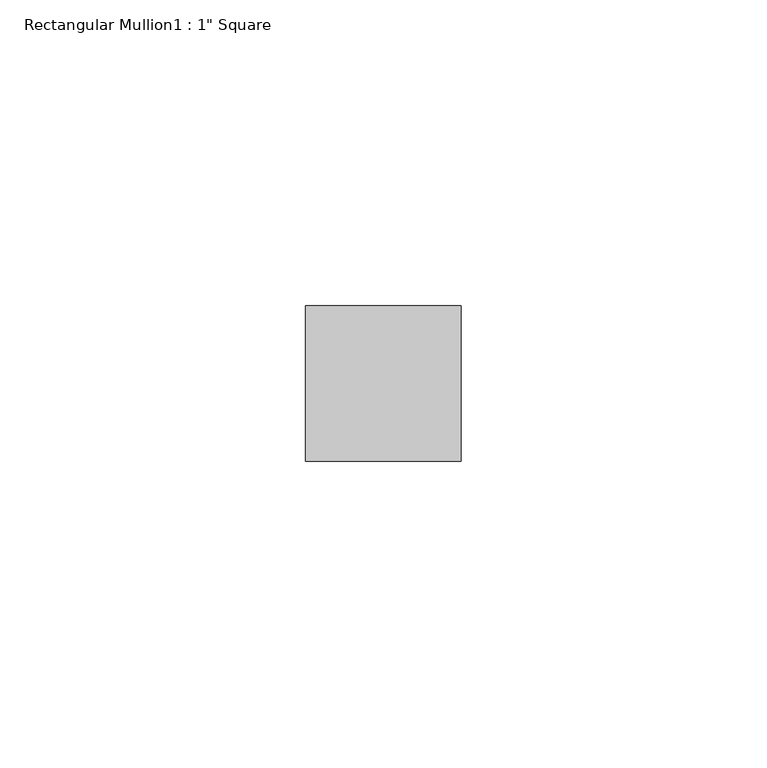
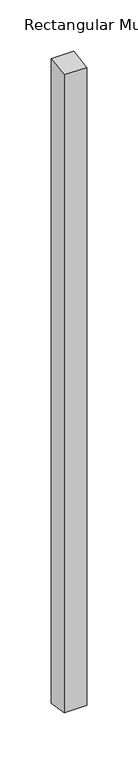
"""IFC4 building model written with IfcOpenShell, lengths in millimetres: member geometry."""

import ifcopenshell
import ifcopenshell.guid

model = None  # the IFC model being written
_history = None  # IfcOwnerHistory: only IFC2X3 demands one
_inside = {}  # id of a spatial element -> (the spatial element, [elements in it])
_under = {}  # id of a project, library or spatial element -> (it, [spatial elements below it])
_declared = {}  # id of a project -> (the project, [libraries it declares])
_typed = {}  # id of a type object -> (the type object, [elements of that type])
_made_of = {}  # id of a material, layer set ... -> (it, [elements and type objects made of it])


def new_model(schema):
    """Start an empty IFC model of exactly this schema.

    Asked for "IFC4X3", IfcOpenShell would pick the latest addendum, in which some entities
    have other attributes; the version numbers below select the first issue.
    IFC2X3 requires an IfcOwnerHistory on every rooted entity: one is made here for all.
    """
    global model, _history
    if schema == "IFC4X3":
        model = ifcopenshell.file(schema_version=(4, 3, 0, 0))
    else:
        model = ifcopenshell.file(schema=schema)
    _inside.clear()
    _under.clear()
    _declared.clear()
    _typed.clear()
    _made_of.clear()
    _history = None
    if model.schema == "IFC2X3":
        org = make("IfcOrganization", Name="unknown")
        user = make(
            "IfcPersonAndOrganization",
            ThePerson=make("IfcPerson", FamilyName="unknown"),
            TheOrganization=org,
        )
        app = make(
            "IfcApplication",
            ApplicationDeveloper=org,
            Version="unknown",
            ApplicationFullName="unknown",
            ApplicationIdentifier="unknown",
        )
        _history = make(
            "IfcOwnerHistory",
            OwningUser=user,
            OwningApplication=app,
            ChangeAction="ADDED",
            CreationDate=0,
        )
    return model


def make(cls, **values):
    """One entity of the class cls with the attributes given. An attribute that is None is left unset."""
    return model.create_entity(
        cls, **{name: value for name, value in values.items() if value is not None}
    )


def rooted(cls, **values):
    """An entity with a GlobalId (a new one), such as an element, a storey or a relation."""
    return make(cls, GlobalId=ifcopenshell.guid.new(), OwnerHistory=_history, **values)


def si_unit(unit_type, name, prefix=None):
    """IfcSIUnit, for example si_unit("LENGTHUNIT", "METRE", prefix="MILLI")."""
    return make("IfcSIUnit", UnitType=unit_type, Prefix=prefix, Name=name)


def assignment(units):
    """IfcUnitAssignment: the units of a project."""
    return None if units is None else make("IfcUnitAssignment", Units=units)


def point(xyz):
    """IfcCartesianPoint."""
    return None if xyz is None else make("IfcCartesianPoint", Coordinates=xyz)


def direction(xyz):
    """IfcDirection."""
    return None if xyz is None else make("IfcDirection", DirectionRatios=xyz)


def frame(location, z_axis=None, x_axis=None):
    """IfcAxis2Placement3D, a coordinate frame: its origin and axes. An axis left out is left unset."""
    return make(
        "IfcAxis2Placement3D",
        Location=point(location),
        Axis=direction(z_axis),
        RefDirection=direction(x_axis),
    )


def origin():
    """The frame at (0, 0, 0) with its axes left unset."""
    return frame((0.0, 0.0, 0.0))


def place(relative_to, where):
    """IfcLocalPlacement: puts the frame where relative to a parent placement (None: the world)."""
    return make(
        "IfcLocalPlacement", PlacementRelTo=relative_to, RelativePlacement=where
    )


def context(
    kind, dimensions, precision=None, world=None, true_north=None, identifier=None
):
    """IfcGeometricRepresentationContext, for example the 3D "Model" context."""
    return make(
        "IfcGeometricRepresentationContext",
        ContextIdentifier=identifier,
        ContextType=kind,
        CoordinateSpaceDimension=dimensions,
        Precision=precision,
        WorldCoordinateSystem=world,
        TrueNorth=true_north,
    )


def project(units=None, contexts=None):
    """IfcProject with its units and contexts."""
    return rooted(
        "IfcProject",
        Name="project",
        RepresentationContexts=contexts,
        UnitsInContext=assignment(units),
    )


def spatial(cls, under=None, at=None, **own):
    """A site, building, storey or space (cls), placed at a placement, below another one or the project."""
    s = rooted(cls, ObjectPlacement=at, **own)
    if under is not None:
        _under.setdefault(under.id(), (under, []))[1].append(s)
    return s


def polyline(points):
    """IfcPolyline through the points."""
    return make("IfcPolyline", Points=[point(p) for p in points])


def outline(outer, holes=None, kind="AREA"):
    """IfcArbitraryClosedProfileDef: a profile drawn as a closed curve; with holes, ...WithVoids."""
    if holes is None:
        return make("IfcArbitraryClosedProfileDef", ProfileType=kind, OuterCurve=outer)
    return make(
        "IfcArbitraryProfileDefWithVoids",
        ProfileType=kind,
        OuterCurve=outer,
        InnerCurves=holes,
    )


def extrude(swept, where, along, depth):
    """IfcExtrudedAreaSolid: the profile swept, set in the frame where, extruded along a direction by depth."""
    return make(
        "IfcExtrudedAreaSolid",
        SweptArea=swept,
        Position=where,
        ExtrudedDirection=direction(along),
        Depth=depth,
    )


def shape(context_of_items, identifier, shape_type, items):
    """IfcShapeRepresentation: the items that make up one representation, for example the "Body"."""
    return make(
        "IfcShapeRepresentation",
        ContextOfItems=context_of_items,
        RepresentationIdentifier=identifier,
        RepresentationType=shape_type,
        Items=items,
    )


def source(mapping_origin, context_of_items, identifier, shape_type, items):
    """IfcRepresentationMap: a shape defined once, which mapped items show again and again."""
    return make(
        "IfcRepresentationMap",
        MappingOrigin=mapping_origin,
        MappedRepresentation=shape(context_of_items, identifier, shape_type, items),
    )


def transform(
    local_origin,
    x_axis=None,
    y_axis=None,
    z_axis=None,
    scale=None,
    scale2=None,
    scale3=None,
    uniform=True,
):
    """IfcCartesianTransformationOperator3D, or its non-uniform kind. x_axis, y_axis, z_axis: its Axis1, 2, 3."""
    if uniform:
        return make(
            "IfcCartesianTransformationOperator3D",
            Axis1=direction(x_axis),
            Axis2=direction(y_axis),
            LocalOrigin=point(local_origin),
            Scale=scale,
            Axis3=direction(z_axis),
        )
    return make(
        "IfcCartesianTransformationOperator3DnonUniform",
        Axis1=direction(x_axis),
        Axis2=direction(y_axis),
        LocalOrigin=point(local_origin),
        Scale=scale,
        Axis3=direction(z_axis),
        Scale2=scale2,
        Scale3=scale3,
    )


def mapped(mapping_source, mapping_target):
    """IfcMappedItem: shows the shape of a source again, moved by a transform."""
    return make(
        "IfcMappedItem", MappingSource=mapping_source, MappingTarget=mapping_target
    )


def made_of(thing, what):
    """Note that an element or type object is made of a material, layer set ...; save() writes the relation."""
    if what is not None:
        _made_of.setdefault(what.id(), (what, []))[1].append(thing)
    return thing


def element(
    cls,
    number,
    at=None,
    inside=None,
    cuts=None,
    type_object=None,
    material=None,
    context=None,
    identifier="Body",
    shape_type=None,
    held_by="IfcProductDefinitionShape",
    body=None,
    shapes=None,
    **own,
):
    """One element of the class cls, such as IfcWall. Its Tag is "e" and its number.

    at: its placement. inside: the storey or other place that contains it. cuts: it is an
    opening in that element (IfcRelVoidsElement). A single representation is given by context,
    identifier, shape_type and body (its items); several are given by shapes. held_by: the class
    of the entity that holds the representations. save() writes the other relations.
    """
    e = rooted(cls, Tag="e%d" % number, ObjectPlacement=at, **own)
    if body is not None:
        shapes = [shape(context, identifier, shape_type, body)]
    if shapes is not None:
        e.Representation = make(held_by, Representations=shapes)
    if inside is not None:
        _inside.setdefault(inside.id(), (inside, []))[1].append(e)
    if cuts is not None:
        rooted(
            "IfcRelVoidsElement", RelatingBuildingElement=cuts, RelatedOpeningElement=e
        )
    if type_object is not None:
        _typed.setdefault(type_object.id(), (type_object, []))[1].append(e)
    return made_of(e, material)


def aggregate(whole, parts):
    """IfcRelAggregates: a whole, such as a stair, and the parts it consists of."""
    return rooted("IfcRelAggregates", RelatingObject=whole, RelatedObjects=parts)


def save(model, path):
    """Write the relations noted so far, then the file.

    IfcRelAggregates (storeys below a building ...), IfcRelContainedInSpatialStructure (elements
    in a storey), IfcRelDefinesByType, IfcRelAssociatesMaterial and IfcRelDeclares: one each for
    every whole, place, type object, material and project.
    """
    for whole, parts in _under.values():
        aggregate(whole, parts)
    for where, things in _inside.values():
        rooted(
            "IfcRelContainedInSpatialStructure",
            RelatedElements=things,
            RelatingStructure=where,
        )
    for kind, things in _typed.values():
        rooted("IfcRelDefinesByType", RelatedObjects=things, RelatingType=kind)
    for what, things in _made_of.values():
        rooted("IfcRelAssociatesMaterial", RelatedObjects=things, RelatingMaterial=what)
    for by, libraries in _declared.values():
        rooted("IfcRelDeclares", RelatingContext=by, RelatedDefinitions=libraries)
    model.write(path)


def member_8995069b(model_context):
    return source(origin(), model_context, "Body", "SweptSolid", [
        extrude(outline(polyline([(-44.45, -7.0452458), (-19.05, -3.019391), (-19.05, -772.1183016), (-44.45, -768.0924469), (-44.45, -7.0452458)])), frame((-25.4, 0.0, 0.0), z_axis=(1.0, 0.0, 0.0), x_axis=(0.0, 1.0, 0.0)), (0.0, 0.0, 1.0), 25.4),
    ])


if __name__ == "__main__":
    model = new_model("IFC4")
    model_context = context("Model", 3, world=origin())
    ifc_project = project(units=[si_unit("LENGTHUNIT", "METRE", prefix="MILLI")], contexts=[model_context])
    site = spatial("IfcSite", under=ifc_project)
    building = spatial("IfcBuilding", under=site)
    placement = place(None, origin())
    member_shape = member_8995069b(model_context)
    element("IfcMember", 1, ObjectType="Rectangular Mullion1 : 1\" Square", at=placement, inside=building, context=model_context, shape_type="MappedRepresentation", body=[
        mapped(member_shape, transform((0.0, 0.0, 0.0), x_axis=(1.0, 0.0, 0.0), y_axis=(0.0, 1.0, 0.0), z_axis=(0.0, 0.0, 1.0))),
    ])
    save(model, "model.ifc")
